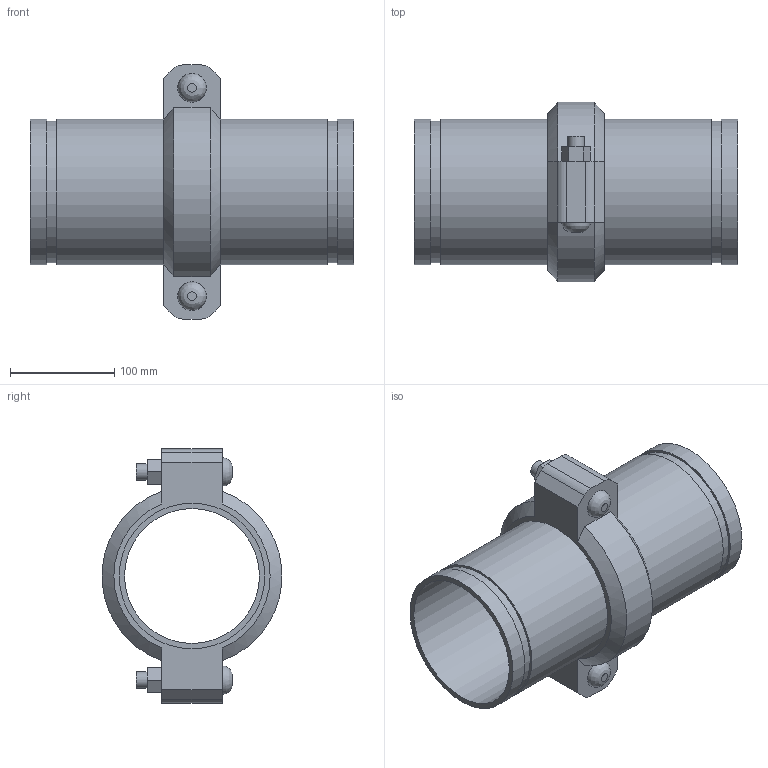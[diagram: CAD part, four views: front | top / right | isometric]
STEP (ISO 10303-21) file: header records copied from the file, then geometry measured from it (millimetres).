
FILE_DESCRIPTION(/* description */ ('VIC EXPANSION JOINT 1 COUPLING EXPANDED STYLE 155 (OGS)','CAx-IF Rec.Pracs.---Representation and Presentation of Product Manufacturing Information (PMI)---4.0---2014-10-13'),/* implementation_level */ '2;1');
FILE_NAME(/* name */ 'C:\Users\kkamble\AppData\Roaming\Autodesk\ApplicationPlugins\Victaulic.Temp\A694\Victaulic_IPS_Expansion Joint_Expanded_1 Coupling_Style 155 (OGS)_05.0 (139.7) (125).stp',/* time_stamp */ '2021-06-26T23:47:48+02:00',/* author */ ('kkamble'),/* organization */ ('Victaulic'),/* preprocessor_version */ 'ST-DEVELOPER v17.2',/* originating_system */ 'Autodesk Inventor 2019',/* authorisation */ '');
FILE_SCHEMA (('AP242_MANAGED_MODEL_BASED_3D_ENGINEERING_MIM_LF { 1 0 10303 442 1 1 4 }'));
Length unit declared in the file: inch
Products named in the file (3): 155-05.0 (139.7); Nipple-05.0 (139.7); 075-05.0 (139.7)
Assembly tree (3 placements, depth 2):
  155-05.0 (139.7)
    Nipple-05.0 (139.7)  x2
    075-05.0 (139.7)
Bounding box: 310.39 x 172.14 x 243.59 mm (x, y, z)
Volume: 1269627.5 mm3; surface area: 373425.2 mm2
Topology: 3 solids, 5 shells, 81 faces, 193 edges, 138 vertices
Faces by surface type: plane 48, cylinder 27, cone 4, bspline 2
Full cylindrical faces by diameter (mm): 15.875 x4, 17.424 x2, 129.388 x2, 133.35 x1, 135.484 x4, 139.7 x8
Entity records: 2301 total; most frequent: CARTESIAN_POINT 420, DIRECTION 369, ORIENTED_EDGE 326, EDGE_CURVE 163, AXIS2_PLACEMENT_3D 141, VERTEX_POINT 114, EDGE_LOOP 89, LINE 87
